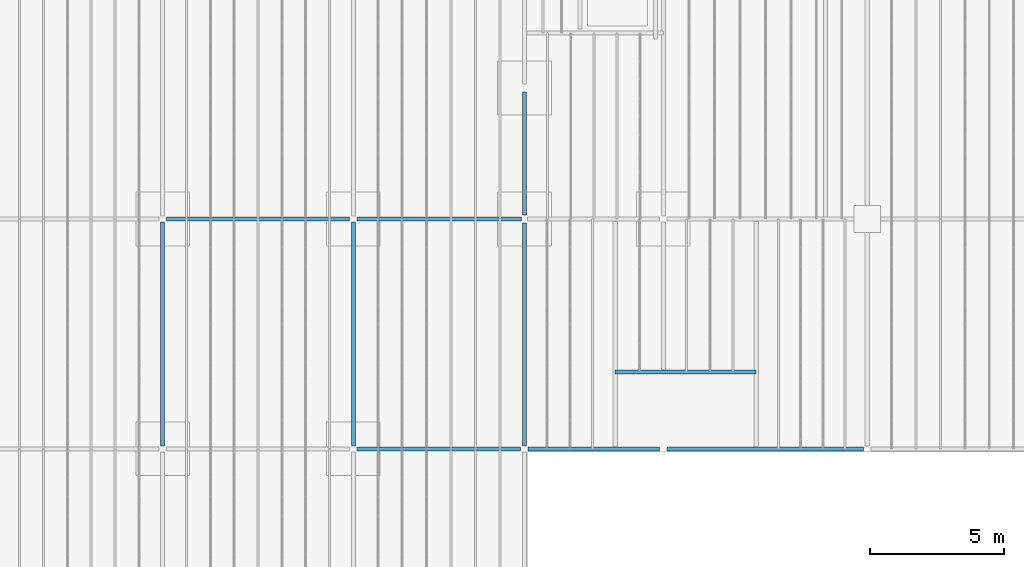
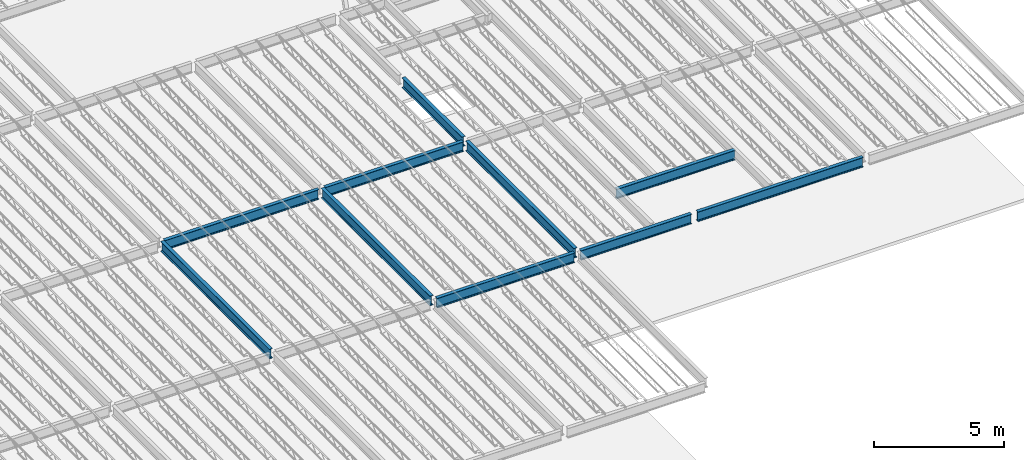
# One storey, part 5 of 75: 11 beams.
"""IFC2X3 building model written with IfcOpenShell, lengths in metres."""

import ifcopenshell
import ifcopenshell.guid

model = None  # the IFC model being written
_history = None  # IfcOwnerHistory: only IFC2X3 demands one
_inside = {}  # id of a spatial element -> (the spatial element, [elements in it])
_under = {}  # id of a project, library or spatial element -> (it, [spatial elements below it])
_declared = {}  # id of a project -> (the project, [libraries it declares])
_typed = {}  # id of a type object -> (the type object, [elements of that type])
_made_of = {}  # id of a material, layer set ... -> (it, [elements and type objects made of it])


def new_model(schema):
    """Start an empty IFC model of exactly this schema.

    Asked for "IFC4X3", IfcOpenShell would pick the latest addendum, in which some entities
    have other attributes; the version numbers below select the first issue.
    IFC2X3 requires an IfcOwnerHistory on every rooted entity: one is made here for all.
    """
    global model, _history
    if schema == "IFC4X3":
        model = ifcopenshell.file(schema_version=(4, 3, 0, 0))
    else:
        model = ifcopenshell.file(schema=schema)
    _inside.clear()
    _under.clear()
    _declared.clear()
    _typed.clear()
    _made_of.clear()
    _history = None
    if model.schema == "IFC2X3":
        org = make("IfcOrganization", Name="unknown")
        user = make(
            "IfcPersonAndOrganization",
            ThePerson=make("IfcPerson", FamilyName="unknown"),
            TheOrganization=org,
        )
        app = make(
            "IfcApplication",
            ApplicationDeveloper=org,
            Version="unknown",
            ApplicationFullName="unknown",
            ApplicationIdentifier="unknown",
        )
        _history = make(
            "IfcOwnerHistory",
            OwningUser=user,
            OwningApplication=app,
            ChangeAction="ADDED",
            CreationDate=0,
        )
    return model


def make(cls, **values):
    """One entity of the class cls with the attributes given. An attribute that is None is left unset."""
    return model.create_entity(
        cls, **{name: value for name, value in values.items() if value is not None}
    )


def entity(cls, *values):
    """Any entity or typed value of the class cls, its attributes in the order of the schema. None: left unset."""
    e = model.create_entity(cls)
    for i, value in enumerate(values):
        if value is not None:
            e[i] = value
    return e


def rooted(cls, **values):
    """An entity with a GlobalId (a new one), such as an element, a storey or a relation."""
    return make(cls, GlobalId=ifcopenshell.guid.new(), OwnerHistory=_history, **values)


def si_unit(unit_type, name, prefix=None):
    """IfcSIUnit, for example si_unit("LENGTHUNIT", "METRE", prefix="MILLI")."""
    return make("IfcSIUnit", UnitType=unit_type, Prefix=prefix, Name=name)


def converted_unit(unit_type, name, factor, base, dimensions=None, offset=None):
    """IfcConversionBasedUnit, such as the inch: factor (a typed value) times the base unit."""
    return make(
        "IfcConversionBasedUnit"
        if offset is None
        else "IfcConversionBasedUnitWithOffset",
        ConversionOffset=offset,
        Dimensions=None
        if dimensions is None
        else entity("IfcDimensionalExponents", *dimensions),
        UnitType=unit_type,
        Name=name,
        ConversionFactor=make(
            "IfcMeasureWithUnit", ValueComponent=factor, UnitComponent=base
        ),
    )


def assignment(units):
    """IfcUnitAssignment: the units of a project."""
    return None if units is None else make("IfcUnitAssignment", Units=units)


def point(xyz):
    """IfcCartesianPoint."""
    return None if xyz is None else make("IfcCartesianPoint", Coordinates=xyz)


def direction(xyz):
    """IfcDirection."""
    return None if xyz is None else make("IfcDirection", DirectionRatios=xyz)


def frame(location, z_axis=None, x_axis=None):
    """IfcAxis2Placement3D, a coordinate frame: its origin and axes. An axis left out is left unset."""
    return make(
        "IfcAxis2Placement3D",
        Location=point(location),
        Axis=direction(z_axis),
        RefDirection=direction(x_axis),
    )


def frame_2d(location, x_axis=None):
    """IfcAxis2Placement2D, a coordinate frame in the plane: its origin and x axis."""
    return make(
        "IfcAxis2Placement2D", Location=point(location), RefDirection=direction(x_axis)
    )


def origin():
    """The frame at (0, 0, 0) with its axes left unset."""
    return frame((0.0, 0.0, 0.0))


def place(relative_to, where):
    """IfcLocalPlacement: puts the frame where relative to a parent placement (None: the world)."""
    return make(
        "IfcLocalPlacement", PlacementRelTo=relative_to, RelativePlacement=where
    )


def context(
    kind, dimensions, precision=None, world=None, true_north=None, identifier=None
):
    """IfcGeometricRepresentationContext, for example the 3D "Model" context."""
    return make(
        "IfcGeometricRepresentationContext",
        ContextIdentifier=identifier,
        ContextType=kind,
        CoordinateSpaceDimension=dimensions,
        Precision=precision,
        WorldCoordinateSystem=world,
        TrueNorth=true_north,
    )


def project(units=None, contexts=None):
    """IfcProject with its units and contexts."""
    return rooted(
        "IfcProject",
        Name="project",
        RepresentationContexts=contexts,
        UnitsInContext=assignment(units),
    )


def spatial(cls, under=None, at=None, **own):
    """A site, building, storey or space (cls), placed at a placement, below another one or the project."""
    s = rooted(cls, ObjectPlacement=at, **own)
    if under is not None:
        _under.setdefault(under.id(), (under, []))[1].append(s)
    return s


def polyline(points):
    """IfcPolyline through the points."""
    return make("IfcPolyline", Points=[point(p) for p in points])


def circle_curve(where, radius):
    """IfcCircle in the frame where."""
    return make("IfcCircle", Position=where, Radius=radius)


def parameter(value):
    """IfcParameterValue: where a trimmed curve begins or ends, as a parameter of its basis curve."""
    return model.create_entity("IfcParameterValue", value)


def trimmed(basis, trim1, trim2, sense, master):
    """IfcTrimmedCurve: the piece of a basis curve between two trims."""
    return make(
        "IfcTrimmedCurve",
        BasisCurve=basis,
        Trim1=trim1,
        Trim2=trim2,
        SenseAgreement=sense,
        MasterRepresentation=master,
    )


def segment(curve, same_sense, transition):
    """IfcCompositeCurveSegment."""
    return make(
        "IfcCompositeCurveSegment",
        Transition=transition,
        SameSense=same_sense,
        ParentCurve=curve,
    )


def composite_curve(segments, self_intersect=None):
    """IfcCompositeCurve: segments joined end to end."""
    return make("IfcCompositeCurve", Segments=segments, SelfIntersect=self_intersect)


def outline(outer, holes=None, kind="AREA"):
    """IfcArbitraryClosedProfileDef: a profile drawn as a closed curve; with holes, ...WithVoids."""
    if holes is None:
        return make("IfcArbitraryClosedProfileDef", ProfileType=kind, OuterCurve=outer)
    return make(
        "IfcArbitraryProfileDefWithVoids",
        ProfileType=kind,
        OuterCurve=outer,
        InnerCurves=holes,
    )


def extrude(swept, where, along, depth):
    """IfcExtrudedAreaSolid: the profile swept, set in the frame where, extruded along a direction by depth."""
    return make(
        "IfcExtrudedAreaSolid",
        SweptArea=swept,
        Position=where,
        ExtrudedDirection=direction(along),
        Depth=depth,
    )


def shape(context_of_items, identifier, shape_type, items):
    """IfcShapeRepresentation: the items that make up one representation, for example the "Body"."""
    return make(
        "IfcShapeRepresentation",
        ContextOfItems=context_of_items,
        RepresentationIdentifier=identifier,
        RepresentationType=shape_type,
        Items=items,
    )


def material(Name=None, Category=None):
    """IfcMaterial."""
    return make("IfcMaterial", Name=Name, Category=Category)


def made_of(thing, what):
    """Note that an element or type object is made of a material, layer set ...; save() writes the relation."""
    if what is not None:
        _made_of.setdefault(what.id(), (what, []))[1].append(thing)
    return thing


def element(
    cls,
    number,
    at=None,
    inside=None,
    cuts=None,
    type_object=None,
    material=None,
    context=None,
    identifier="Body",
    shape_type=None,
    held_by="IfcProductDefinitionShape",
    body=None,
    shapes=None,
    **own,
):
    """One element of the class cls, such as IfcWall. Its Tag is "e" and its number.

    at: its placement. inside: the storey or other place that contains it. cuts: it is an
    opening in that element (IfcRelVoidsElement). A single representation is given by context,
    identifier, shape_type and body (its items); several are given by shapes. held_by: the class
    of the entity that holds the representations. save() writes the other relations.
    """
    e = rooted(cls, Tag="e%d" % number, ObjectPlacement=at, **own)
    if body is not None:
        shapes = [shape(context, identifier, shape_type, body)]
    if shapes is not None:
        e.Representation = make(held_by, Representations=shapes)
    if inside is not None:
        _inside.setdefault(inside.id(), (inside, []))[1].append(e)
    if cuts is not None:
        rooted(
            "IfcRelVoidsElement", RelatingBuildingElement=cuts, RelatedOpeningElement=e
        )
    if type_object is not None:
        _typed.setdefault(type_object.id(), (type_object, []))[1].append(e)
    return made_of(e, material)


def aggregate(whole, parts):
    """IfcRelAggregates: a whole, such as a stair, and the parts it consists of."""
    return rooted("IfcRelAggregates", RelatingObject=whole, RelatedObjects=parts)


def save(model, path):
    """Write the relations noted so far, then the file.

    IfcRelAggregates (storeys below a building ...), IfcRelContainedInSpatialStructure (elements
    in a storey), IfcRelDefinesByType, IfcRelAssociatesMaterial and IfcRelDeclares: one each for
    every whole, place, type object, material and project.
    """
    for whole, parts in _under.values():
        aggregate(whole, parts)
    for where, things in _inside.values():
        rooted(
            "IfcRelContainedInSpatialStructure",
            RelatedElements=things,
            RelatingStructure=where,
        )
    for kind, things in _typed.values():
        rooted("IfcRelDefinesByType", RelatedObjects=things, RelatingType=kind)
    for what, things in _made_of.values():
        rooted("IfcRelAssociatesMaterial", RelatedObjects=things, RelatingMaterial=what)
    for by, libraries in _declared.values():
        rooted("IfcRelDeclares", RelatingContext=by, RelatedDefinitions=libraries)
    model.write(path)


model = new_model("IFC2X3")

# Units and contexts
model_context = context("Model", 3, precision=1e-09, world=origin())
plan_context = context("Plan", 3, precision=1e-09, world=origin())
ifc_project = project(units=[si_unit("LENGTHUNIT", "METRE"), si_unit("AREAUNIT", "SQUARE_METRE"), si_unit("VOLUMEUNIT", "CUBIC_METRE"), converted_unit("PLANEANGLEUNIT", "DEGREE", entity("IfcRatioMeasure", 0.01745329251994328), si_unit("PLANEANGLEUNIT", "RADIAN"), dimensions=[0, 0, 0, 0, 0, 0, 0]), si_unit("TIMEUNIT", "SECOND")], contexts=[model_context, plan_context])

# Site, building, storey
site_placement = place(None, origin())
site = spatial("IfcSite", under=ifc_project, at=site_placement, Name="Default", CompositionType="ELEMENT")
building_placement = place(site_placement, origin())
building = spatial("IfcBuilding", under=site, at=building_placement, CompositionType="ELEMENT")
storey_placement = place(building_placement, origin())
storey = spatial("IfcBuildingStorey", under=building, at=storey_placement, Name="First Floor", CompositionType="ELEMENT", Elevation=-3.531500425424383e-13)

# Beams
ifc_material = material(Name="Metal - Steel - 345 MPa")
beam_1_placement = place(storey_placement, frame((-20.06000000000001, 23.49689442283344, 4.46800000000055), z_axis=(0.0, 0.0, 1.0), x_axis=(-1.0, 0.0, 0.0)))
element("IfcBeam", 1, at=beam_1_placement, inside=storey, material=ifc_material, Name="M_W-Wide Flange:W460X60:W460X60", ObjectType="M_W-Wide Flange:W460X60", context=model_context, shape_type="SweptSolid", body=[
    extrude(outline(composite_curve([segment(polyline([(0.2141999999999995, -0.0764999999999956), (0.2275000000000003, -0.0764999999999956)]), True, "CONTINUOUS"), segment(polyline([(0.2275000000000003, -0.0764999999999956), (0.2275000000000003, 0.07650000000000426)]), True, "CONTINUOUS"), segment(polyline([(0.2275000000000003, 0.07650000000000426), (0.2141999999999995, 0.07650000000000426)]), True, "CONTINUOUS"), segment(polyline([(0.2141999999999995, 0.07650000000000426), (0.2141999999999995, 0.02170000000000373)]), True, "CONTINUOUS"), segment(trimmed(circle_curve(frame_2d((0.1964999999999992, 0.02170000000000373), x_axis=(1.0, 0.0)), 0.0177), [parameter(269.9999999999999)], [parameter(359.9999999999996)], True, "PARAMETER"), False, "CONTINUOUS"), segment(polyline([(0.1964999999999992, 0.004000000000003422), (-0.1965000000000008, 0.004000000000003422)]), True, "CONTINUOUS"), segment(trimmed(circle_curve(frame_2d((-0.1965000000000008, 0.02170000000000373), x_axis=(0.0, -1.0)), 0.0177), [parameter(269.9999999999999)], [parameter(359.9999999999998)], True, "PARAMETER"), False, "CONTINUOUS"), segment(polyline([(-0.2142000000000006, 0.02170000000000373), (-0.2142000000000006, 0.07650000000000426)]), True, "CONTINUOUS"), segment(polyline([(-0.2142000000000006, 0.07650000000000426), (-0.2274999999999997, 0.07650000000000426)]), True, "CONTINUOUS"), segment(polyline([(-0.2274999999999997, 0.07650000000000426), (-0.2274999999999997, -0.0764999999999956)]), True, "CONTINUOUS"), segment(polyline([(-0.2274999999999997, -0.0764999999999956), (-0.2142000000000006, -0.0764999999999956)]), True, "CONTINUOUS"), segment(polyline([(-0.2142000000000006, -0.0764999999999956), (-0.2142000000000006, -0.02169999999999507)]), True, "CONTINUOUS"), segment(trimmed(circle_curve(frame_2d((-0.1965000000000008, -0.02169999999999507), x_axis=(-1.0, 0.0)), 0.0177), [parameter(269.9999999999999)], [parameter(359.9999999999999)], True, "PARAMETER"), False, "CONTINUOUS"), segment(polyline([(-0.1965000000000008, -0.00399999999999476), (0.1964999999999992, -0.00399999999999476)]), True, "CONTINUOUS"), segment(trimmed(circle_curve(frame_2d((0.1964999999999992, -0.02169999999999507), x_axis=(0.0, 1.0)), 0.0177), [parameter(269.9999999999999)], [parameter(5.088887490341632e-14)], True, "PARAMETER"), False, "CONTINUOUS"), segment(polyline([(0.2141999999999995, -0.02169999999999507), (0.2141999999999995, -0.0764999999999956)]), True, "CONTINUOUS")], self_intersect=False)), frame((0.0, 4.745694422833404, -0.2275000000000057), z_axis=(0.0, -1.0, 0.0), x_axis=(0.0, 0.0, -1.0)), (0.0, 0.0, 1.0), 4.601691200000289),
])
beam_2_placement = place(storey_placement, frame((-7.278198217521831, 10.03999999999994, 4.404500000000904), z_axis=(0.0, 0.0, 1.0), x_axis=(0.0, 1.0, 0.0)))
element("IfcBeam", 2, at=beam_2_placement, inside=storey, material=ifc_material, Name="M_W-Wide Flange:W460X60:W460X60", ObjectType="M_W-Wide Flange:W460X60", context=model_context, shape_type="SweptSolid", body=[
    extrude(outline(composite_curve([segment(polyline([(0.2141999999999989, -0.07649999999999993), (0.2274999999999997, -0.07649999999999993)]), True, "CONTINUOUS"), segment(polyline([(0.2274999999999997, -0.07649999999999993), (0.2274999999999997, 0.07649999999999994)]), True, "CONTINUOUS"), segment(polyline([(0.2274999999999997, 0.07649999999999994), (0.2141999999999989, 0.07649999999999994)]), True, "CONTINUOUS"), segment(polyline([(0.2141999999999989, 0.07649999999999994), (0.2141999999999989, 0.02170000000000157)]), True, "CONTINUOUS"), segment(trimmed(circle_curve(frame_2d((0.1964999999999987, 0.02170000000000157), x_axis=(1.0, 0.0)), 0.0177), [parameter(269.9999999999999)], [parameter(359.9999999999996)], True, "PARAMETER"), False, "CONTINUOUS"), segment(polyline([(0.1964999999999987, 0.004000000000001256), (-0.1965000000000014, 0.004000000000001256)]), True, "CONTINUOUS"), segment(trimmed(circle_curve(frame_2d((-0.1965000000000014, 0.02170000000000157), x_axis=(0.0, -1.0)), 0.0177), [parameter(269.9999999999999)], [parameter(359.9999999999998)], True, "PARAMETER"), False, "CONTINUOUS"), segment(polyline([(-0.2142000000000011, 0.02170000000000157), (-0.2142000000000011, 0.07649999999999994)]), True, "CONTINUOUS"), segment(polyline([(-0.2142000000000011, 0.07649999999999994), (-0.2275000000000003, 0.07649999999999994)]), True, "CONTINUOUS"), segment(polyline([(-0.2275000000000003, 0.07649999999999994), (-0.2275000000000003, -0.07649999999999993)]), True, "CONTINUOUS"), segment(polyline([(-0.2275000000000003, -0.07649999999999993), (-0.2142000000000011, -0.07649999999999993)]), True, "CONTINUOUS"), segment(polyline([(-0.2142000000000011, -0.07649999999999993), (-0.2142000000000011, -0.0216999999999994)]), True, "CONTINUOUS"), segment(trimmed(circle_curve(frame_2d((-0.1965000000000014, -0.0216999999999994), x_axis=(-1.0, 0.0)), 0.0177), [parameter(269.9999999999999)], [parameter(359.9999999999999)], True, "PARAMETER"), False, "CONTINUOUS"), segment(polyline([(-0.1965000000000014, -0.003999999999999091), (0.1964999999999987, -0.003999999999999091)]), True, "CONTINUOUS"), segment(trimmed(circle_curve(frame_2d((0.1964999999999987, -0.0216999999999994), x_axis=(0.0, 1.0)), 0.0177), [parameter(269.9999999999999)], [parameter(5.088887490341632e-14)], True, "PARAMETER"), False, "CONTINUOUS"), segment(polyline([(0.2141999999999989, -0.0216999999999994), (0.2141999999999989, -0.07649999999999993)]), True, "CONTINUOUS")], self_intersect=False)), frame((0.0, 7.460576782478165, -0.2275000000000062), z_axis=(0.0, -1.0, 0.0), x_axis=(0.0, 0.0, -1.0)), (0.0, 0.0, 1.0), 7.31757499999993),
])
beam_3_placement = place(storey_placement, frame((-26.44000000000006, 18.61159788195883, 4.46800000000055), z_axis=(0.0, 0.0, 1.0), x_axis=(-1.0, 0.0, 0.0)))
element("IfcBeam", 3, at=beam_3_placement, inside=storey, material=ifc_material, Name="M_W-Wide Flange:W460X60:W460X60", ObjectType="M_W-Wide Flange:W460X60", context=model_context, shape_type="SweptSolid", body=[
    extrude(outline(composite_curve([segment(polyline([(0.2141999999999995, -0.07649999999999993), (0.2275000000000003, -0.07649999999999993)]), True, "CONTINUOUS"), segment(polyline([(0.2275000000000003, -0.07649999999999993), (0.2275000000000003, 0.07649999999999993)]), True, "CONTINUOUS"), segment(polyline([(0.2275000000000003, 0.07649999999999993), (0.2141999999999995, 0.07649999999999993)]), True, "CONTINUOUS"), segment(polyline([(0.2141999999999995, 0.07649999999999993), (0.2141999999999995, 0.0216999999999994)]), True, "CONTINUOUS"), segment(trimmed(circle_curve(frame_2d((0.1964999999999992, 0.0216999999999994), x_axis=(1.0, 0.0)), 0.0177), [parameter(269.9999999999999)], [parameter(359.9999999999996)], True, "PARAMETER"), False, "CONTINUOUS"), segment(polyline([(0.1964999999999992, 0.003999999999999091), (-0.1965000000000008, 0.003999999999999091)]), True, "CONTINUOUS"), segment(trimmed(circle_curve(frame_2d((-0.1965000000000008, 0.0216999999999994), x_axis=(0.0, -1.0)), 0.0177), [parameter(269.9999999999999)], [parameter(359.9999999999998)], True, "PARAMETER"), False, "CONTINUOUS"), segment(polyline([(-0.2142000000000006, 0.0216999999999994), (-0.2142000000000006, 0.07649999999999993)]), True, "CONTINUOUS"), segment(polyline([(-0.2142000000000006, 0.07649999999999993), (-0.2274999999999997, 0.07649999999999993)]), True, "CONTINUOUS"), segment(polyline([(-0.2274999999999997, 0.07649999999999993), (-0.2274999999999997, -0.07649999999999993)]), True, "CONTINUOUS"), segment(polyline([(-0.2274999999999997, -0.07649999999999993), (-0.2142000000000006, -0.07649999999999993)]), True, "CONTINUOUS"), segment(polyline([(-0.2142000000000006, -0.07649999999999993), (-0.2142000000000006, -0.0216999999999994)]), True, "CONTINUOUS"), segment(trimmed(circle_curve(frame_2d((-0.1965000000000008, -0.0216999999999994), x_axis=(-1.0, 0.0)), 0.0177), [parameter(269.9999999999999)], [parameter(359.9999999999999)], True, "PARAMETER"), False, "CONTINUOUS"), segment(polyline([(-0.1965000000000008, -0.00399999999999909), (0.1964999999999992, -0.00399999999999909)]), True, "CONTINUOUS"), segment(trimmed(circle_curve(frame_2d((0.1964999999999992, -0.0216999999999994), x_axis=(0.0, 1.0)), 0.0177), [parameter(269.9999999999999)], [parameter(5.088887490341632e-14)], True, "PARAMETER"), False, "CONTINUOUS"), segment(polyline([(0.2141999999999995, -0.0216999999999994), (0.2141999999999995, -0.07649999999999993)]), True, "CONTINUOUS")], self_intersect=False)), frame((0.0, 8.456897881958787, -0.2275000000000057), z_axis=(0.0, -1.0, 0.0), x_axis=(0.0, 0.0, -1.0)), (0.0, 0.0, 1.0), 8.340600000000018),
])
beam_4_placement = place(storey_placement, frame((-14.87733184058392, 10.03999999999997, 4.404500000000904), z_axis=(0.0, 0.0, 1.0), x_axis=(0.0, 1.0, 0.0)))
element("IfcBeam", 4, at=beam_4_placement, inside=storey, material=ifc_material, Name="M_W-Wide Flange:W460X60:W460X60", ObjectType="M_W-Wide Flange:W460X60", context=model_context, shape_type="SweptSolid", body=[
    extrude(outline(composite_curve([segment(polyline([(0.2141999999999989, -0.07649999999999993), (0.2274999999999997, -0.07649999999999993)]), True, "CONTINUOUS"), segment(polyline([(0.2274999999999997, -0.07649999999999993), (0.2274999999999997, 0.07649999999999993)]), True, "CONTINUOUS"), segment(polyline([(0.2274999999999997, 0.07649999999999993), (0.2141999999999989, 0.07649999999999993)]), True, "CONTINUOUS"), segment(polyline([(0.2141999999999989, 0.07649999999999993), (0.2141999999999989, 0.02170000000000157)]), True, "CONTINUOUS"), segment(trimmed(circle_curve(frame_2d((0.1964999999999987, 0.02170000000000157), x_axis=(1.0, 0.0)), 0.0177), [parameter(269.9999999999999)], [parameter(359.9999999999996)], True, "PARAMETER"), False, "CONTINUOUS"), segment(polyline([(0.1964999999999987, 0.004000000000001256), (-0.1965000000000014, 0.004000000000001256)]), True, "CONTINUOUS"), segment(trimmed(circle_curve(frame_2d((-0.1965000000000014, 0.02170000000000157), x_axis=(0.0, -1.0)), 0.0177), [parameter(269.9999999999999)], [parameter(359.9999999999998)], True, "PARAMETER"), False, "CONTINUOUS"), segment(polyline([(-0.2142000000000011, 0.02170000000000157), (-0.2142000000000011, 0.07649999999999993)]), True, "CONTINUOUS"), segment(polyline([(-0.2142000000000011, 0.07649999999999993), (-0.2275000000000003, 0.07649999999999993)]), True, "CONTINUOUS"), segment(polyline([(-0.2275000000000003, 0.07649999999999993), (-0.2275000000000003, -0.07649999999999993)]), True, "CONTINUOUS"), segment(polyline([(-0.2275000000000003, -0.07649999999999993), (-0.2142000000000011, -0.07649999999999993)]), True, "CONTINUOUS"), segment(polyline([(-0.2142000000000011, -0.07649999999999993), (-0.2142000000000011, -0.0216999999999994)]), True, "CONTINUOUS"), segment(trimmed(circle_curve(frame_2d((-0.1965000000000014, -0.0216999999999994), x_axis=(-1.0, 0.0)), 0.0177), [parameter(269.9999999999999)], [parameter(359.9999999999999)], True, "PARAMETER"), False, "CONTINUOUS"), segment(polyline([(-0.1965000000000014, -0.003999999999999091), (0.1964999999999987, -0.003999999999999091)]), True, "CONTINUOUS"), segment(trimmed(circle_curve(frame_2d((0.1964999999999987, -0.0216999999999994), x_axis=(0.0, 1.0)), 0.0177), [parameter(269.9999999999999)], [parameter(5.088887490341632e-14)], True, "PARAMETER"), False, "CONTINUOUS"), segment(polyline([(0.2141999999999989, -0.0216999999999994), (0.2141999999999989, -0.07649999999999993)]), True, "CONTINUOUS")], self_intersect=False)), frame((0.0, 5.041468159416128, -0.2275000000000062), z_axis=(0.0, -1.0, 0.0), x_axis=(0.0, 0.0, -1.0)), (0.0, 0.0, 1.0), 4.897625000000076),
])
beam_5_placement = place(storey_placement, frame((-33.55192591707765, 18.61000000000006, 4.404500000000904), z_axis=(0.0, 0.0, 1.0), x_axis=(0.0, -1.0, 0.0)))
element("IfcBeam", 5, at=beam_5_placement, inside=storey, material=ifc_material, Name="M_W-Wide Flange:W460X60:W460X60", ObjectType="M_W-Wide Flange:W460X60", context=model_context, shape_type="SweptSolid", body=[
    extrude(outline(composite_curve([segment(polyline([(-0.07649999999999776, -0.2142000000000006), (-0.07649999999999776, -0.2275000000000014)]), True, "CONTINUOUS"), segment(polyline([(-0.07649999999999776, -0.2275000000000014), (0.07650000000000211, -0.2275000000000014)]), True, "CONTINUOUS"), segment(polyline([(0.07650000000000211, -0.2275000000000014), (0.07650000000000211, -0.2142000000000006)]), True, "CONTINUOUS"), segment(polyline([(0.07650000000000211, -0.2142000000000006), (0.02170000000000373, -0.2142000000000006)]), True, "CONTINUOUS"), segment(trimmed(circle_curve(frame_2d((0.02170000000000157, -0.1965000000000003), x_axis=(0.0, -1.0)), 0.0177), [parameter(269.9999999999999)], [parameter(359.9999999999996)], True, "PARAMETER"), False, "CONTINUOUS"), segment(polyline([(0.004000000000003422, -0.1965000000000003), (0.004000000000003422, 0.1964999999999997)]), True, "CONTINUOUS"), segment(trimmed(circle_curve(frame_2d((0.02170000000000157, 0.1964999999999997), x_axis=(-1.0, 0.0)), 0.0177), [parameter(269.9999999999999)], [parameter(359.9999999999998)], True, "PARAMETER"), False, "CONTINUOUS"), segment(polyline([(0.02170000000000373, 0.2141999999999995), (0.07650000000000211, 0.2141999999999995)]), True, "CONTINUOUS"), segment(polyline([(0.07650000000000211, 0.2141999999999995), (0.07650000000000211, 0.2274999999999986)]), True, "CONTINUOUS"), segment(polyline([(0.07650000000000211, 0.2274999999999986), (-0.07649999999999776, 0.2274999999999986)]), True, "CONTINUOUS"), segment(polyline([(-0.07649999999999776, 0.2274999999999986), (-0.07649999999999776, 0.2141999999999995)]), True, "CONTINUOUS"), segment(polyline([(-0.07649999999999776, 0.2141999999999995), (-0.02169999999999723, 0.2141999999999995)]), True, "CONTINUOUS"), segment(trimmed(circle_curve(frame_2d((-0.0216999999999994, 0.1964999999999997), x_axis=(0.0, 1.0)), 0.0177), [parameter(269.9999999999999)], [parameter(359.9999999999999)], True, "PARAMETER"), False, "CONTINUOUS"), segment(polyline([(-0.003999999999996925, 0.1964999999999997), (-0.003999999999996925, -0.1965000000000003)]), True, "CONTINUOUS"), segment(trimmed(circle_curve(frame_2d((-0.0216999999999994, -0.1965000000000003), x_axis=(1.0, 0.0)), 0.0177), [parameter(269.9999999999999)], [parameter(5.088887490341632e-14)], True, "PARAMETER"), False, "CONTINUOUS"), segment(polyline([(-0.02169999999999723, -0.2142000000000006), (-0.07649999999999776, -0.2142000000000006)]), True, "CONTINUOUS")], self_intersect=False)), frame((0.0, 0.1431259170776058, -0.2275000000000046), z_axis=(0.0, -1.0, 0.0), x_axis=(1.0, 0.0, 0.0)), (0.0, 0.0, -1.0), 6.827600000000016),
])
beam_6_placement = place(storey_placement, frame((-20.06000000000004, 10.03840211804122, 4.46800000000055)))
element("IfcBeam", 6, at=beam_6_placement, inside=storey, material=ifc_material, Name="M_W-Wide Flange:W460X60:W460X60", ObjectType="M_W-Wide Flange:W460X60", context=model_context, shape_type="SweptSolid", body=[
    extrude(outline(composite_curve([segment(polyline([(-0.07649999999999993, -0.2142), (-0.07649999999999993, -0.2275000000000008)]), True, "CONTINUOUS"), segment(polyline([(-0.07649999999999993, -0.2275000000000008), (0.07649999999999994, -0.2275000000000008)]), True, "CONTINUOUS"), segment(polyline([(0.07649999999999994, -0.2275000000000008), (0.07649999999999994, -0.2142)]), True, "CONTINUOUS"), segment(polyline([(0.07649999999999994, -0.2142), (0.0216999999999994, -0.2142)]), True, "CONTINUOUS"), segment(trimmed(circle_curve(frame_2d((0.02169999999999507, -0.1964999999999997), x_axis=(0.0, -1.0)), 0.0177), [parameter(269.9999999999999)], [parameter(359.9999999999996)], True, "PARAMETER"), False, "CONTINUOUS"), segment(polyline([(0.003999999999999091, -0.1964999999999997), (0.003999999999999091, 0.1965000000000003)]), True, "CONTINUOUS"), segment(trimmed(circle_curve(frame_2d((0.02169999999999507, 0.1965000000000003), x_axis=(-1.0, 0.0)), 0.0177), [parameter(269.9999999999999)], [parameter(359.9999999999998)], True, "PARAMETER"), False, "CONTINUOUS"), segment(polyline([(0.0216999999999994, 0.2142000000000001), (0.07649999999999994, 0.2142000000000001)]), True, "CONTINUOUS"), segment(polyline([(0.07649999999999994, 0.2142000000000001), (0.07649999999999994, 0.2274999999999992)]), True, "CONTINUOUS"), segment(polyline([(0.07649999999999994, 0.2274999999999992), (-0.07649999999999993, 0.2274999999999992)]), True, "CONTINUOUS"), segment(polyline([(-0.07649999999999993, 0.2274999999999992), (-0.07649999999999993, 0.2142000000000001)]), True, "CONTINUOUS"), segment(polyline([(-0.07649999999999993, 0.2142000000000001), (-0.0216999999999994, 0.2142000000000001)]), True, "CONTINUOUS"), segment(trimmed(circle_curve(frame_2d((-0.02170000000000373, 0.1965000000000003), x_axis=(0.0, 1.0)), 0.0177), [parameter(269.9999999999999)], [parameter(359.9999999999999)], True, "PARAMETER"), False, "CONTINUOUS"), segment(polyline([(-0.00399999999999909, 0.1965000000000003), (-0.00399999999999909, -0.1964999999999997)]), True, "CONTINUOUS"), segment(trimmed(circle_curve(frame_2d((-0.02170000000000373, -0.1964999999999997), x_axis=(1.0, 0.0)), 0.0177), [parameter(269.9999999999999)], [parameter(5.088887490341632e-14)], True, "PARAMETER"), False, "CONTINUOUS"), segment(polyline([(-0.0216999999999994, -0.2142), (-0.07649999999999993, -0.2142)]), True, "CONTINUOUS")], self_intersect=False)), frame((0.0, 0.1162978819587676, -0.2275000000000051), z_axis=(0.0, -1.0, 0.0), x_axis=(1.0, 0.0, 0.0)), (0.0, 0.0, -1.0), 8.314100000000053),
])
beam_7_placement = place(storey_placement, frame((-33.55000000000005, 18.61159788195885, 4.46800000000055), z_axis=(0.0, 0.0, 1.0), x_axis=(-1.0, 0.0, 0.0)))
element("IfcBeam", 7, at=beam_7_placement, inside=storey, material=ifc_material, Name="M_W-Wide Flange:W460X60:W460X60", ObjectType="M_W-Wide Flange:W460X60", context=model_context, shape_type="SweptSolid", body=[
    extrude(outline(composite_curve([segment(polyline([(0.2141999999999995, -0.0764999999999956), (0.2275000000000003, -0.0764999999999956)]), True, "CONTINUOUS"), segment(polyline([(0.2275000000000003, -0.0764999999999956), (0.2275000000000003, 0.07650000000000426)]), True, "CONTINUOUS"), segment(polyline([(0.2275000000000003, 0.07650000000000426), (0.2141999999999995, 0.07650000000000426)]), True, "CONTINUOUS"), segment(polyline([(0.2141999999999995, 0.07650000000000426), (0.2141999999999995, 0.02170000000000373)]), True, "CONTINUOUS"), segment(trimmed(circle_curve(frame_2d((0.1964999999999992, 0.02170000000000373), x_axis=(1.0, 0.0)), 0.0177), [parameter(269.9999999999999)], [parameter(359.9999999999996)], True, "PARAMETER"), False, "CONTINUOUS"), segment(polyline([(0.1964999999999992, 0.004000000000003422), (-0.1965000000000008, 0.004000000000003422)]), True, "CONTINUOUS"), segment(trimmed(circle_curve(frame_2d((-0.1965000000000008, 0.02170000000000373), x_axis=(0.0, -1.0)), 0.0177), [parameter(269.9999999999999)], [parameter(359.9999999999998)], True, "PARAMETER"), False, "CONTINUOUS"), segment(polyline([(-0.2142000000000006, 0.02170000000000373), (-0.2142000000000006, 0.07650000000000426)]), True, "CONTINUOUS"), segment(polyline([(-0.2142000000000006, 0.07650000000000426), (-0.2274999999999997, 0.07650000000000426)]), True, "CONTINUOUS"), segment(polyline([(-0.2274999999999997, 0.07650000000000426), (-0.2274999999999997, -0.0764999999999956)]), True, "CONTINUOUS"), segment(polyline([(-0.2274999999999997, -0.0764999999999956), (-0.2142000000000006, -0.0764999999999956)]), True, "CONTINUOUS"), segment(polyline([(-0.2142000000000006, -0.0764999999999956), (-0.2142000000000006, -0.02169999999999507)]), True, "CONTINUOUS"), segment(trimmed(circle_curve(frame_2d((-0.1965000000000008, -0.02169999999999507), x_axis=(-1.0, 0.0)), 0.0177), [parameter(269.9999999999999)], [parameter(359.9999999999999)], True, "PARAMETER"), False, "CONTINUOUS"), segment(polyline([(-0.1965000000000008, -0.00399999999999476), (0.1964999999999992, -0.00399999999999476)]), True, "CONTINUOUS"), segment(trimmed(circle_curve(frame_2d((0.1964999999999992, -0.02169999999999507), x_axis=(0.0, 1.0)), 0.0177), [parameter(269.9999999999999)], [parameter(5.088887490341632e-14)], True, "PARAMETER"), False, "CONTINUOUS"), segment(polyline([(0.2141999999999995, -0.02169999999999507), (0.2141999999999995, -0.0764999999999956)]), True, "CONTINUOUS")], self_intersect=False)), frame((0.0, 8.456897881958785, -0.2275000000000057), z_axis=(0.0, -1.0, 0.0), x_axis=(0.0, 0.0, -1.0)), (0.0, 0.0, 1.0), 8.340600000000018),
])
beam_8_placement = place(storey_placement, frame((-20.05785378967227, 10.03999999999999, 4.404500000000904), z_axis=(0.0, 0.0, 1.0), x_axis=(0.0, 1.0, 0.0)))
element("IfcBeam", 8, at=beam_8_placement, inside=storey, material=ifc_material, Name="M_W-Wide Flange:W460X60:W460X60", ObjectType="M_W-Wide Flange:W460X60", context=model_context, shape_type="SweptSolid", body=[
    extrude(outline(composite_curve([segment(polyline([(0.2141999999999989, -0.0765000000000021), (0.2274999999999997, -0.0765000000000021)]), True, "CONTINUOUS"), segment(polyline([(0.2274999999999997, -0.0765000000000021), (0.2274999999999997, 0.07649999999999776)]), True, "CONTINUOUS"), segment(polyline([(0.2274999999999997, 0.07649999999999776), (0.2141999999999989, 0.07649999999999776)]), True, "CONTINUOUS"), segment(polyline([(0.2141999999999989, 0.07649999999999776), (0.2141999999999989, 0.0216999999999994)]), True, "CONTINUOUS"), segment(trimmed(circle_curve(frame_2d((0.1964999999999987, 0.0216999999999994), x_axis=(1.0, 0.0)), 0.0177), [parameter(269.9999999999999)], [parameter(359.9999999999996)], True, "PARAMETER"), False, "CONTINUOUS"), segment(polyline([(0.1964999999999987, 0.00399999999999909), (-0.1965000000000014, 0.00399999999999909)]), True, "CONTINUOUS"), segment(trimmed(circle_curve(frame_2d((-0.1965000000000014, 0.0216999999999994), x_axis=(0.0, -1.0)), 0.0177), [parameter(269.9999999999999)], [parameter(359.9999999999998)], True, "PARAMETER"), False, "CONTINUOUS"), segment(polyline([(-0.2142000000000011, 0.0216999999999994), (-0.2142000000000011, 0.07649999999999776)]), True, "CONTINUOUS"), segment(polyline([(-0.2142000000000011, 0.07649999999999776), (-0.2275000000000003, 0.07649999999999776)]), True, "CONTINUOUS"), segment(polyline([(-0.2275000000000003, 0.07649999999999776), (-0.2275000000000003, -0.0765000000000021)]), True, "CONTINUOUS"), segment(polyline([(-0.2275000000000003, -0.0765000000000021), (-0.2142000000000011, -0.0765000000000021)]), True, "CONTINUOUS"), segment(polyline([(-0.2142000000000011, -0.0765000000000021), (-0.2142000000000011, -0.02170000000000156)]), True, "CONTINUOUS"), segment(trimmed(circle_curve(frame_2d((-0.1965000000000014, -0.02170000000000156), x_axis=(-1.0, 0.0)), 0.0177), [parameter(269.9999999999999)], [parameter(359.9999999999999)], True, "PARAMETER"), False, "CONTINUOUS"), segment(polyline([(-0.1965000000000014, -0.004000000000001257), (0.1964999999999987, -0.004000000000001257)]), True, "CONTINUOUS"), segment(trimmed(circle_curve(frame_2d((0.1964999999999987, -0.02170000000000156), x_axis=(0.0, 1.0)), 0.0177), [parameter(269.9999999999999)], [parameter(5.088887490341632e-14)], True, "PARAMETER"), False, "CONTINUOUS"), segment(polyline([(0.2141999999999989, -0.02170000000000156), (0.2141999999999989, -0.0765000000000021)]), True, "CONTINUOUS")], self_intersect=False)), frame((0.0, 6.240946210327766, -0.2275000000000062), z_axis=(0.0, -1.0, 0.0), x_axis=(0.0, 0.0, -1.0)), (0.0, 0.0, 1.0), 6.097600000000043),
])
beam_9_placement = place(storey_placement, frame((-20.05785378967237, 10.03999999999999, 4.404500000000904), z_axis=(0.0, 0.0, 1.0), x_axis=(0.0, 1.0, 0.0)))
element("IfcBeam", 9, at=beam_9_placement, inside=storey, material=ifc_material, Name="M_W-Wide Flange:W460X60:W460X60", ObjectType="M_W-Wide Flange:W460X60", context=model_context, shape_type="SweptSolid", body=[
    extrude(outline(composite_curve([segment(polyline([(0.2141999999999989, -0.0765000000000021), (0.2274999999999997, -0.0765000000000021)]), True, "CONTINUOUS"), segment(polyline([(0.2274999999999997, -0.0765000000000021), (0.2274999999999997, 0.07649999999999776)]), True, "CONTINUOUS"), segment(polyline([(0.2274999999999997, 0.07649999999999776), (0.2141999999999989, 0.07649999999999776)]), True, "CONTINUOUS"), segment(polyline([(0.2141999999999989, 0.07649999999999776), (0.2141999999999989, 0.0216999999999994)]), True, "CONTINUOUS"), segment(trimmed(circle_curve(frame_2d((0.1964999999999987, 0.0216999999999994), x_axis=(1.0, 0.0)), 0.0177), [parameter(269.9999999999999)], [parameter(359.9999999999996)], True, "PARAMETER"), False, "CONTINUOUS"), segment(polyline([(0.1964999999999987, 0.00399999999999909), (-0.1965000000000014, 0.00399999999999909)]), True, "CONTINUOUS"), segment(trimmed(circle_curve(frame_2d((-0.1965000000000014, 0.0216999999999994), x_axis=(0.0, -1.0)), 0.0177), [parameter(269.9999999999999)], [parameter(359.9999999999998)], True, "PARAMETER"), False, "CONTINUOUS"), segment(polyline([(-0.2142000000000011, 0.0216999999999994), (-0.2142000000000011, 0.07649999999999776)]), True, "CONTINUOUS"), segment(polyline([(-0.2142000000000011, 0.07649999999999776), (-0.2275000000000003, 0.07649999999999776)]), True, "CONTINUOUS"), segment(polyline([(-0.2275000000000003, 0.07649999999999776), (-0.2275000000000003, -0.0765000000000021)]), True, "CONTINUOUS"), segment(polyline([(-0.2275000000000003, -0.0765000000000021), (-0.2142000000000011, -0.0765000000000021)]), True, "CONTINUOUS"), segment(polyline([(-0.2142000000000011, -0.0765000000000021), (-0.2142000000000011, -0.02170000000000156)]), True, "CONTINUOUS"), segment(trimmed(circle_curve(frame_2d((-0.1965000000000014, -0.02170000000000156), x_axis=(-1.0, 0.0)), 0.0177), [parameter(269.9999999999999)], [parameter(359.9999999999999)], True, "PARAMETER"), False, "CONTINUOUS"), segment(polyline([(-0.1965000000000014, -0.004000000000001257), (0.1964999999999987, -0.004000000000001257)]), True, "CONTINUOUS"), segment(trimmed(circle_curve(frame_2d((0.1964999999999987, -0.02170000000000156), x_axis=(0.0, 1.0)), 0.0177), [parameter(269.9999999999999)], [parameter(5.088887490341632e-14)], True, "PARAMETER"), False, "CONTINUOUS"), segment(polyline([(0.2141999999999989, -0.02170000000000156), (0.2141999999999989, -0.0765000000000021)]), True, "CONTINUOUS")], self_intersect=False)), frame((0.0, 6.240946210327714, -0.2275000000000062), z_axis=(0.0, -1.0, 0.0), x_axis=(0.0, 0.0, -1.0)), (0.0, 0.0, 1.0), 6.097600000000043),
])
beam_10_placement = place(storey_placement, frame((-16.52689627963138, 12.9120921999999, 4.40450000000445), z_axis=(0.0, 0.0, 1.0), x_axis=(0.0, -1.0, 0.0)))
element("IfcBeam", 10, at=beam_10_placement, inside=storey, material=ifc_material, Name="M_W-Wide Flange:W460X60:W460X60", ObjectType="M_W-Wide Flange:W460X60", context=model_context, shape_type="SweptSolid", body=[
    extrude(outline(composite_curve([segment(polyline([(-0.07649999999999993, -0.2142), (-0.07649999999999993, -0.2275000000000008)]), True, "CONTINUOUS"), segment(polyline([(-0.07649999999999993, -0.2275000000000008), (0.07649999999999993, -0.2275000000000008)]), True, "CONTINUOUS"), segment(polyline([(0.07649999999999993, -0.2275000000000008), (0.07649999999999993, -0.2142)]), True, "CONTINUOUS"), segment(polyline([(0.07649999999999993, -0.2142), (0.02170000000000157, -0.2142)]), True, "CONTINUOUS"), segment(trimmed(circle_curve(frame_2d((0.02170000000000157, -0.1964999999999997), x_axis=(1.0, 0.0)), 0.0177), [parameter(180.0)], [parameter(269.9999999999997)], True, "PARAMETER"), False, "CONTINUOUS"), segment(polyline([(0.004000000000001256, -0.1964999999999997), (0.004000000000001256, 0.1965000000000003)]), True, "CONTINUOUS"), segment(trimmed(circle_curve(frame_2d((0.02170000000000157, 0.1965000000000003), x_axis=(1.0, 0.0)), 0.0177), [parameter(90.00000000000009)], [parameter(179.9999999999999)], True, "PARAMETER"), False, "CONTINUOUS"), segment(polyline([(0.02170000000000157, 0.2142000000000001), (0.07649999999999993, 0.2142000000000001)]), True, "CONTINUOUS"), segment(polyline([(0.07649999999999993, 0.2142000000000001), (0.07649999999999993, 0.2274999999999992)]), True, "CONTINUOUS"), segment(polyline([(0.07649999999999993, 0.2274999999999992), (-0.07649999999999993, 0.2274999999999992)]), True, "CONTINUOUS"), segment(polyline([(-0.07649999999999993, 0.2274999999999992), (-0.07649999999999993, 0.2142000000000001)]), True, "CONTINUOUS"), segment(polyline([(-0.07649999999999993, 0.2142000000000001), (-0.0216999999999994, 0.2142000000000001)]), True, "CONTINUOUS"), segment(trimmed(circle_curve(frame_2d((-0.0216999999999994, 0.1965000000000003), x_axis=(1.0, 0.0)), 0.0177), [parameter(359.9999999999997)], [parameter(89.99999999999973)], True, "PARAMETER"), False, "CONTINUOUS"), segment(polyline([(-0.003999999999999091, 0.1965000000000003), (-0.003999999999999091, -0.1964999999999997)]), True, "CONTINUOUS"), segment(trimmed(circle_curve(frame_2d((-0.0216999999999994, -0.1964999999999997), x_axis=(1.0, 0.0)), 0.0177), [parameter(269.9999999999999)], [parameter(0.0)], True, "PARAMETER"), False, "CONTINUOUS"), segment(polyline([(-0.0216999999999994, -0.2142), (-0.07649999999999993, -0.2142)]), True, "CONTINUOUS")], self_intersect=False)), frame((0.0, -0.148162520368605, -0.2275000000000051), z_axis=(0.0, -1.0, 0.0), x_axis=(1.0, 0.0, 0.0)), (0.0, 0.0, -1.0), 5.257000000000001),
])
beam_11_placement = place(storey_placement, frame((-26.44214621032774, 18.61000000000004, 4.404500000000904), z_axis=(0.0, 0.0, 1.0), x_axis=(0.0, -1.0, 0.0)))
element("IfcBeam", 11, at=beam_11_placement, inside=storey, material=ifc_material, Name="M_W-Wide Flange:W460X60:W460X60", ObjectType="M_W-Wide Flange:W460X60", context=model_context, shape_type="SweptSolid", body=[
    extrude(outline(composite_curve([segment(polyline([(-0.0765000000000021, -0.2142000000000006), (-0.0765000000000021, -0.2275000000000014)]), True, "CONTINUOUS"), segment(polyline([(-0.0765000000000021, -0.2275000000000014), (0.07649999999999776, -0.2275000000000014)]), True, "CONTINUOUS"), segment(polyline([(0.07649999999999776, -0.2275000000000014), (0.07649999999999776, -0.2142000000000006)]), True, "CONTINUOUS"), segment(polyline([(0.07649999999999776, -0.2142000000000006), (0.0216999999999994, -0.2142000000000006)]), True, "CONTINUOUS"), segment(trimmed(circle_curve(frame_2d((0.0216999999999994, -0.1965000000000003), x_axis=(0.0, -1.0)), 0.0177), [parameter(269.9999999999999)], [parameter(359.9999999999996)], True, "PARAMETER"), False, "CONTINUOUS"), segment(polyline([(0.00399999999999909, -0.1965000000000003), (0.00399999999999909, 0.1964999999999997)]), True, "CONTINUOUS"), segment(trimmed(circle_curve(frame_2d((0.0216999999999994, 0.1964999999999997), x_axis=(-1.0, 0.0)), 0.0177), [parameter(269.9999999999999)], [parameter(359.9999999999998)], True, "PARAMETER"), False, "CONTINUOUS"), segment(polyline([(0.0216999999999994, 0.2141999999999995), (0.07649999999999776, 0.2141999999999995)]), True, "CONTINUOUS"), segment(polyline([(0.07649999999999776, 0.2141999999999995), (0.07649999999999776, 0.2274999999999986)]), True, "CONTINUOUS"), segment(polyline([(0.07649999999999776, 0.2274999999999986), (-0.0765000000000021, 0.2274999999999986)]), True, "CONTINUOUS"), segment(polyline([(-0.0765000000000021, 0.2274999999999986), (-0.0765000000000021, 0.2141999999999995)]), True, "CONTINUOUS"), segment(polyline([(-0.0765000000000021, 0.2141999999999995), (-0.02170000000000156, 0.2141999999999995)]), True, "CONTINUOUS"), segment(trimmed(circle_curve(frame_2d((-0.02170000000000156, 0.1964999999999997), x_axis=(0.0, 1.0)), 0.0177), [parameter(269.9999999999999)], [parameter(359.9999999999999)], True, "PARAMETER"), False, "CONTINUOUS"), segment(polyline([(-0.004000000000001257, 0.1964999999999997), (-0.004000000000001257, -0.1965000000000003)]), True, "CONTINUOUS"), segment(trimmed(circle_curve(frame_2d((-0.02170000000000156, -0.1965000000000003), x_axis=(1.0, 0.0)), 0.0177), [parameter(269.9999999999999)], [parameter(5.088887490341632e-14)], True, "PARAMETER"), False, "CONTINUOUS"), segment(polyline([(-0.02170000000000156, -0.2142000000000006), (-0.0765000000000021, -0.2142000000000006)]), True, "CONTINUOUS")], self_intersect=False)), frame((0.0, 0.1433462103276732, -0.2275000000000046), z_axis=(0.0, -1.0, 0.0), x_axis=(1.0, 0.0, 0.0)), (0.0, 0.0, -1.0), 6.12410000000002),
])

save(model, "model.ifc")
